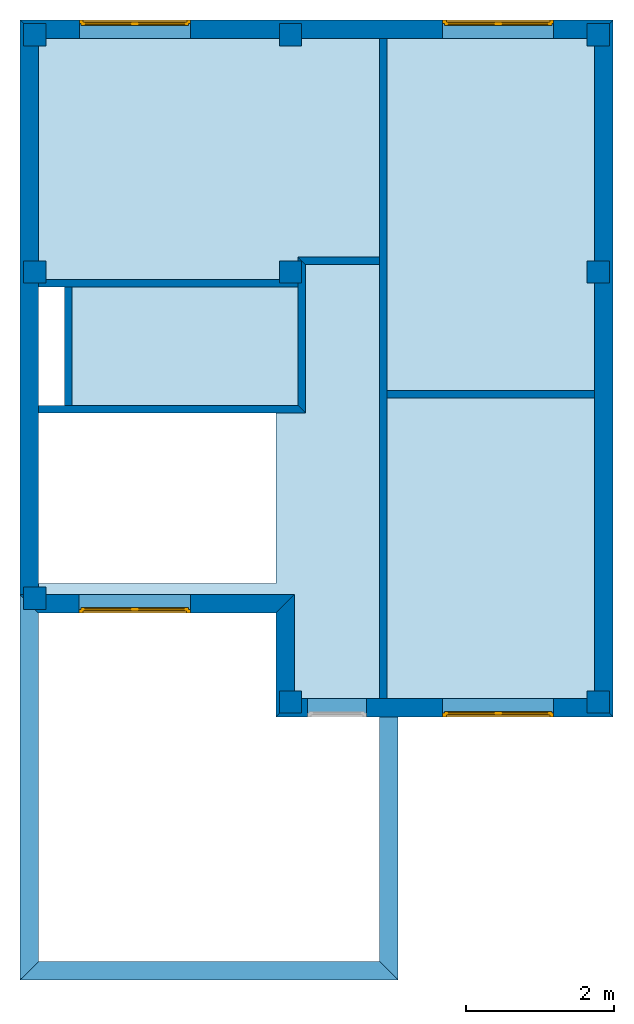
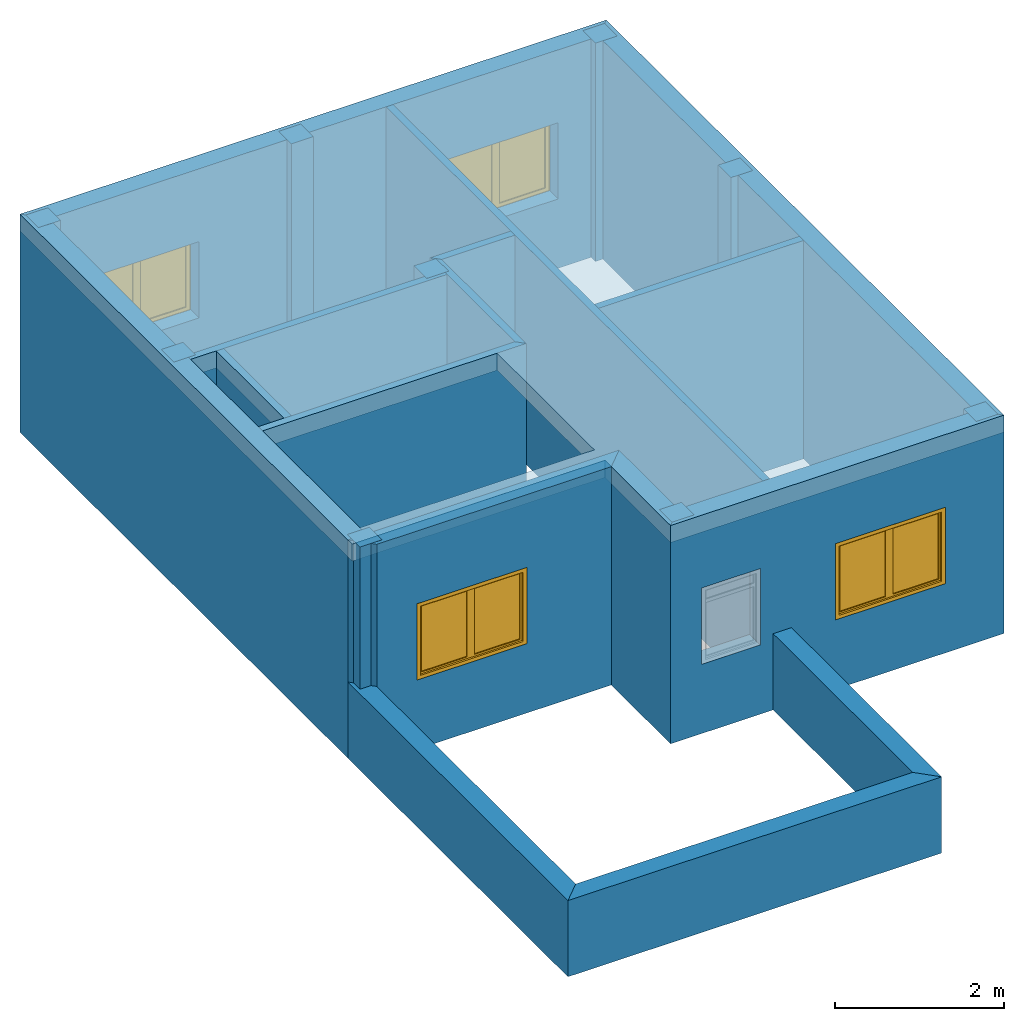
# One storey, part 1 of 2: 16 walls, 9 columns, 4 windows, 1 slab, 7 openings.
"""IFC2X3 building model written with IfcOpenShell, lengths in millimetres."""

from ifc_helpers import new_model, entity, si_unit, converted_unit, direction, frame, frame_2d, origin_with_axes, origin_2d_with_axis, place, context, project, spatial, polyline, rectangle, outline, extrude, faceted_brep, source, transform, mapped, material, layer, layer_set, layer_usage, type_object, element, fill, save


model = new_model("IFC2X3")

# Units and contexts
context_of_model = context(None, 3, precision=1e-05, world=origin_with_axes(), true_north=direction((6.123234e-17, 1.0)))
plan_context = context("Plan", 3, precision=1e-05, world=origin_with_axes(), true_north=direction((6.123234e-17, 1.0)))
model_context = context("Model", 3, precision=1e-05, world=origin_with_axes(), true_north=direction((6.123234e-17, 1.0)))
ifc_project = project(units=[si_unit("LENGTHUNIT", "METRE", prefix="MILLI"), si_unit("AREAUNIT", "SQUARE_METRE"), si_unit("VOLUMEUNIT", "CUBIC_METRE"), converted_unit("PLANEANGLEUNIT", "DEGREE", entity("IfcPlaneAngleMeasure", 0.017453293), si_unit("PLANEANGLEUNIT", "RADIAN"), dimensions=[0, 0, 0, 0, 0, 0, 0]), si_unit("SOLIDANGLEUNIT", "STERADIAN"), si_unit("MASSUNIT", "GRAM"), si_unit("TIMEUNIT", "SECOND"), si_unit("THERMODYNAMICTEMPERATUREUNIT", "DEGREE_CELSIUS"), si_unit("LUMINOUSINTENSITYUNIT", "LUMEN")], contexts=[context_of_model, plan_context, model_context])

# Site, building, storey
site_placement = place(None, origin_with_axes())
site = spatial("IfcSite", under=ifc_project, at=site_placement, Name="Por defecto Sitio", CompositionType="ELEMENT")
building_placement = place(site_placement, origin_with_axes())
building = spatial("IfcBuilding", under=site, at=building_placement, Name="Por defecto Edificio", CompositionType="ELEMENT")
storey_placement = place(building_placement, frame((0.0, 0.0, 3150.0), z_axis=(0.0, 0.0, 1.0), x_axis=(1.0, 0.0, 0.0)))
storey = spatial("IfcBuildingStorey", under=building, at=storey_placement, Name="Primera", CompositionType="ELEMENT", Elevation=3150.0)

# Columns
ifc_material_1 = material(Name="Hormigón armado")
for number, where, z_axis, x_axis, name in (
    (1, (7600.0, 12550.0, 0.0), (0.0, 0.0, 1.0), (1.0, 0.0, 0.0), "Pilar-011"),
    (2, (3450.0, 12550.0, 0.0), (0.0, 0.0, 1.0), (1.0, 0.0, 0.0), "Pilar-010"),
    (3, (3450.0, 3550.0, 0.0), (0.0, 0.0, 1.0), (1.0, 0.0, 0.0), "Pilar-003"),
    (4, (7600.0, 3550.0, 0.0), (0.0, 0.0, 1.0), (1.0, 0.0, 0.0), "Pilar-004"),
    (5, (0.0, 4950.0, 0.0), (0.0, 0.0, 1.0), (1.0, 0.0, 0.0), "Pilar-005"),
    (6, (7600.0, 9350.0, 0.0), (0.0, 0.0, 1.0), (1.0, 0.0, 0.0), "Pilar-006"),
    (7, (3450.0, 9350.0, 0.0), (0.0, 0.0, 1.0), (1.0, 0.0, 0.0), "Pilar-007"),
    (8, (0.0, 9350.0, 0.0), (0.0, 0.0, 1.0), (1.0, 0.0, 0.0), "Pilar-008"),
    (9, (0.0, 12550.0, 0.0), (0.0, 0.0, 1.0), (1.0, 0.0, 0.0), "Pilar-009"),
):
    element("IfcColumn", number, at=place(storey_placement, frame(where, z_axis=z_axis, x_axis=x_axis)), inside=storey, material=ifc_material_1, Name=name, context=model_context, shape_type="SweptSolid", body=[
        extrude(rectangle(XDim=300.0, YDim=300.0, at=origin_2d_with_axis()), origin_with_axes(), (0.0, 0.0, 1.0), 3150.0),
    ])

# Slab, openings
ifc_layer_1 = layer(ifc_material_1, 250.0, ventilated="UNKNOWN")
ifc_layer_set_1 = layer_set([ifc_layer_1], Name="Hormigón armado 250")
ifc_layer_usage_1 = layer_usage(ifc_layer_set_1, "AXIS3", "NEGATIVE", 250.0)
slab_placement = place(storey_placement, frame((7800.0, 3350.0, 2900.0), z_axis=(0.0, 0.0, 1.0), x_axis=(0.0, 1.0, 0.0)))
slab = element("IfcSlab", 10, at=slab_placement, inside=storey, material=ifc_layer_usage_1, Name="Forj-005", PredefinedType="FLOOR", context=model_context, shape_type="SweptSolid", body=[
    extrude(outline(polyline([(0.0, 0.0), (9400.0, 0.0), (9400.0, 8000.0), (1550.0, 8000.0), (1550.0, 4550.0), (0.0, 4550.0), (0.0, 0.0)])), origin_with_axes(), (0.0, 0.0, 1.0), 250.0),
])
opening_1_placement = place(slab_placement, origin_with_axes())
element("IfcOpeningElement", 11, at=opening_1_placement, cuts=slab, context=model_context, shape_type="SweptSolid", body=[
    extrude(outline(polyline([(5800.0, 7750.0), (5800.0, 7400.0), (4200.0, 7400.0), (4200.0, 7750.0), (5800.0, 7750.0)])), origin_with_axes(), (0.0, 0.0, 1.0), 250.0),
])
opening_2_placement = place(slab_placement, origin_with_axes())
element("IfcOpeningElement", 12, at=opening_2_placement, cuts=slab, context=model_context, shape_type="SweptSolid", body=[
    extrude(outline(polyline([(4100.0, 7750.0), (4100.0, 4550.0), (1800.0, 4550.0), (1800.0, 7750.0), (4100.0, 7750.0)])), origin_with_axes(), (0.0, 0.0, 1.0), 250.0),
])

# Walls
ifc_material_2 = material(Name="Bloque mampostería")
ifc_layer_2 = layer(ifc_material_2, 250.0, ventilated="UNKNOWN")
ifc_layer_set_2 = layer_set([ifc_layer_2], Name="Bloque mampostería 250")
ifc_layer_usage_2 = layer_usage(ifc_layer_set_2, "AXIS2", "NEGATIVE", 0.0)
wall_type_1 = type_object("IfcWallType", Name="Bloque mampostería 250", PredefinedType="NOTDEFINED", material=ifc_layer_set_2)
wall_1_placement = place(storey_placement, frame((4900.0, 3350.0, 0.0), z_axis=(0.0, 0.0, 1.0), x_axis=(0.0, -1.0, 0.0)))
element("IfcWallStandardCase", 13, at=wall_1_placement, inside=storey, type_object=wall_type_1, material=ifc_layer_usage_2, Name="Muro-009", context=model_context, shape_type="SweptSolid", body=[
    extrude(outline(polyline([(0.0, -250.0), (3300.0, -250.0), (3550.0, 0.0), (0.0, 0.0), (0.0, -250.0)])), origin_with_axes(), (0.0, 0.0, 1.0), 1100.0),
])
ifc_layer_usage_3 = layer_usage(ifc_layer_set_2, "AXIS2", "NEGATIVE", 0.0)
wall_2_placement = place(storey_placement, frame((4900.0, -200.0, 0.0), z_axis=(0.0, 0.0, 1.0), x_axis=(-1.0, 0.0, 0.0)))
element("IfcWallStandardCase", 14, at=wall_2_placement, inside=storey, type_object=wall_type_1, material=ifc_layer_usage_3, Name="Muro-010", context=model_context, shape_type="SweptSolid", body=[
    extrude(outline(polyline([(250.0, -250.0), (4850.0, -250.0), (5100.0, 0.0), (0.0, 0.0), (250.0, -250.0)])), origin_with_axes(), (0.0, 0.0, 1.0), 1100.0),
])
ifc_layer_usage_4 = layer_usage(ifc_layer_set_2, "AXIS2", "NEGATIVE", 0.0)
wall_3_placement = place(storey_placement, frame((-200.0, -200.0, 0.0), z_axis=(0.0, 0.0, 1.0), x_axis=(0.0, 1.0, 0.0)))
element("IfcWallStandardCase", 15, at=wall_3_placement, inside=storey, type_object=wall_type_1, material=ifc_layer_usage_4, Name="Muro-011", context=model_context, shape_type="SweptSolid", body=[
    extrude(outline(polyline([(250.0, -250.0), (4950.0, -250.0), (5200.0, 0.0), (0.0, 0.0), (250.0, -250.0)])), origin_with_axes(), (0.0, 0.0, 1.0), 1100.0),
])

# Wall, openings, window
ifc_layer_usage_5 = layer_usage(ifc_layer_set_2, "AXIS2", "NEGATIVE", 0.0)
wall_4_placement = place(storey_placement, frame((7800.0, 3350.0, 0.0), z_axis=(0.0, 0.0, 1.0), x_axis=(-1.0, 0.0, 0.0)))
wall_4 = element("IfcWallStandardCase", 16, at=wall_4_placement, inside=storey, type_object=wall_type_1, material=ifc_layer_usage_5, Name="Muro-009", context=model_context, shape_type="SweptSolid", body=[
    extrude(outline(polyline([(250.0, -250.0), (4300.0, -250.0), (4550.0, 0.0), (0.0, 0.0), (250.0, -250.0)])), origin_with_axes(), (0.0, 0.0, 1.0), 3150.0),
])
opening_3_placement = place(wall_4_placement, frame((1550.0, -250.0, 1000.0), z_axis=(0.0, 0.0, 1.0), x_axis=(1.0, 0.0, 0.0)))
opening_3 = element("IfcOpeningElement", 17, at=opening_3_placement, cuts=wall_4, ObjectType="Opening", context=model_context, shape_type="SweptSolid", body=[
    extrude(rectangle(XDim=1500.0, YDim=1100.0, at=frame_2d((0.0, 550.0), x_axis=(1.0, 0.0))), frame((0.0, 0.0, 0.0), z_axis=(0.0, 1.0, 0.0), x_axis=(-1.0, 0.0, 0.0)), (0.0, 0.0, 1.0), 250.0),
])
opening_4_placement = place(wall_4_placement, frame((3725.0, -250.0, 1000.0), z_axis=(0.0, 0.0, 1.0), x_axis=(1.0, 0.0, 0.0)))
element("IfcOpeningElement", 18, at=opening_4_placement, cuts=wall_4, ObjectType="Opening", context=model_context, shape_type="SweptSolid", body=[
    extrude(rectangle(XDim=800.0, YDim=1100.0, at=frame_2d((0.0, 550.0), x_axis=(1.0, 0.0))), frame((0.0, 0.0, 0.0), z_axis=(0.0, 1.0, 0.0), x_axis=(-1.0, 0.0, 0.0)), (0.0, 0.0, 1.0), 250.0),
])
window_style = type_object("IfcWindowStyle", Name="V2 Practicable 13", ConstructionType="NOTDEFINED", OperationType="SINGLE_PANEL", ParameterTakesPrecedence=False, Sizeable=False)
shared_shape_1 = source(origin_with_axes(), model_context, "Body", "Brep", [
    faceted_brep([(1475.0, 50.0, 1050.0), (1475.0, 25.0, 1050.0), (1450.0, 25.0, 1050.0), (1450.0, 0.0, 1050.0), (1500.0, 0.0, 1050.0), (1500.0, 50.0, 1050.0), (1475.0, 50.0, 50.0), (1475.0, 25.0, 50.0), (1450.0, 25.0, 50.0), (1450.0, 0.0, 50.0), (1500.0, 0.0, 50.0), (1500.0, 50.0, 50.0)], [[[0, 1, 2, 3, 4, 5]], [[1, 0, 6, 7]], [[8, 2, 1, 7]], [[2, 8, 9, 3]], [[4, 3, 9, 10]], [[5, 4, 10, 11]], [[6, 0, 5, 11]], [[7, 6, 11, 10, 9, 8]]]),
    faceted_brep([(50.0, 25.0, 1050.0), (25.0, 25.0, 1050.0), (25.0, 50.0, 1050.0), (-4.4408921e-13, 50.0, 1050.0), (-4.4408921e-13, 0.0, 1050.0), (50.0, 0.0, 1050.0), (50.0, 25.0, 50.0), (25.0, 25.0, 50.0), (25.0, 50.0, 50.0), (-4.4408921e-13, 50.0, 50.0), (-4.4408921e-13, 0.0, 50.0), (50.0, 0.0, 50.0)], [[[0, 1, 2, 3, 4, 5]], [[1, 0, 6, 7]], [[8, 2, 1, 7]], [[2, 8, 9, 3]], [[9, 10, 4, 3]], [[10, 11, 5, 4]], [[6, 0, 5, 11]], [[7, 6, 11, 10, 9, 8]]]),
    faceted_brep([(50.0, 25.0, 50.0), (25.0, 25.0, 50.0), (25.0, 50.0, 50.0), (-4.4408921e-13, 50.0, 50.0), (-4.4408921e-13, 0.0, 50.0), (50.0, 0.0, 50.0), (1450.0, 25.0, 50.0), (1475.0, 25.0, 50.0), (1475.0, 25.0, 25.0), (750.0, 25.0, 25.0), (25.0, 25.0, 25.0), (25.0, 50.0, 25.0), (1475.0, 50.0, 25.0), (1475.0, 50.0, 50.0), (1500.0, 50.0, 50.0), (1500.0, 50.0, 0.0), (-4.4408921e-13, 50.0, 0.0), (750.0, 50.0, 25.0), (0.0, 0.0, 0.0), (1500.0, 0.0, 50.0), (1450.0, 0.0, 50.0), (1500.0, 0.0, 0.0)], [[[0, 1, 2, 3, 4, 5]], [[1, 0, 6, 7, 8, 9, 10]], [[11, 2, 1, 10]], [[12, 13, 14, 15, 16, 3, 2, 11, 17]], [[16, 18, 4, 3]], [[19, 20, 5, 4, 18, 21]], [[6, 0, 5, 20]], [[7, 6, 20, 19, 14, 13]], [[7, 13, 12, 8]], [[12, 17, 9, 8]], [[17, 11, 10, 9]], [[14, 19, 21, 15]], [[15, 21, 18, 16]]]),
    faceted_brep([(1475.0, 50.0, 1075.0), (750.0, 50.0, 1075.0), (25.0, 50.0, 1075.0), (25.0, 50.0, 1050.0), (-4.4408921e-13, 50.0, 1050.0), (-4.4408921e-13, 50.0, 1100.0), (1500.0, 50.0, 1100.0), (1500.0, 50.0, 1050.0), (1475.0, 50.0, 1050.0), (1475.0, 25.0, 1075.0), (750.0, 25.0, 1075.0), (25.0, 25.0, 1075.0), (25.0, 25.0, 1050.0), (50.0, 25.0, 1050.0), (50.0, 0.0, 1050.0), (-4.4408921e-13, 0.0, 1050.0), (-4.4408921e-13, 0.0, 1100.0), (1500.0, 0.0, 1100.0), (1500.0, 0.0, 1050.0), (1475.0, 25.0, 1050.0), (1450.0, 0.0, 1050.0), (1450.0, 25.0, 1050.0)], [[[0, 1, 2, 3, 4, 5, 6, 7, 8]], [[1, 0, 9, 10]], [[2, 1, 10, 11]], [[3, 2, 11, 12]], [[12, 13, 14, 15, 4, 3]], [[4, 15, 16, 5]], [[5, 16, 17, 6]], [[6, 17, 18, 7]], [[19, 8, 7, 18, 20, 21]], [[0, 8, 19, 9]], [[13, 12, 11, 10, 9, 19, 21]], [[13, 21, 20, 14]], [[15, 14, 20, 18, 17, 16]]]),
    faceted_brep([(75.0, 25.0, 75.0), (75.0, 75.0, 75.0), (75.0, 75.0, 1025.0), (75.0, 25.0, 1025.0), (25.0, 25.0, 75.0), (25.0, 75.0, 75.0), (25.0, 75.0, 1025.0), (25.0, 25.0, 1025.0)], [[[0, 1, 2, 3]], [[4, 5, 1, 0]], [[1, 5, 6, 2]], [[3, 2, 6, 7]], [[0, 3, 7, 4]], [[7, 6, 5, 4]]]),
    faceted_brep([(750.0, 25.0, 75.0), (750.0, 75.0, 75.0), (750.0, 75.0, 1025.0), (750.0, 25.0, 1025.0), (700.0, 25.0, 75.0), (700.0, 75.0, 75.0), (700.0, 75.0, 1025.0), (700.0, 25.0, 1025.0)], [[[0, 1, 2, 3]], [[4, 5, 1, 0]], [[1, 5, 6, 2]], [[3, 2, 6, 7]], [[0, 3, 7, 4]], [[7, 6, 5, 4]]]),
    faceted_brep([(750.0, 25.0, 25.0), (750.0, 75.0, 25.0), (750.0, 75.0, 75.0), (750.0, 25.0, 75.0), (25.0, 25.0, 25.0), (25.0, 75.0, 25.0), (25.0, 75.0, 75.0), (75.0, 75.0, 75.0), (700.0, 75.0, 75.0), (700.0, 25.0, 75.0), (75.0, 25.0, 75.0), (25.0, 25.0, 75.0)], [[[0, 1, 2, 3]], [[4, 5, 1, 0]], [[1, 5, 6, 7, 8, 2]], [[3, 2, 8, 9]], [[0, 3, 9, 10, 11, 4]], [[11, 6, 5, 4]], [[10, 7, 6, 11]], [[9, 8, 7, 10]]]),
    faceted_brep([(25.0, 25.0, 1075.0), (25.0, 75.0, 1075.0), (25.0, 75.0, 1025.0), (25.0, 25.0, 1025.0), (750.0, 25.0, 1075.0), (750.0, 75.0, 1075.0), (750.0, 75.0, 1025.0), (700.0, 75.0, 1025.0), (75.0, 75.0, 1025.0), (75.0, 25.0, 1025.0), (700.0, 25.0, 1025.0), (750.0, 25.0, 1025.0)], [[[0, 1, 2, 3]], [[4, 5, 1, 0]], [[1, 5, 6, 7, 8, 2]], [[3, 2, 8, 9]], [[0, 3, 9, 10, 11, 4]], [[11, 6, 5, 4]], [[10, 7, 6, 11]], [[9, 8, 7, 10]]]),
    faceted_brep([(75.0, 40.0, 75.0), (75.0, 60.0, 75.0), (700.0, 60.0, 75.0), (700.0, 40.0, 75.0), (75.0, 40.0, 1025.0), (75.0, 60.0, 1025.0), (700.0, 60.0, 1025.0), (700.0, 40.0, 1025.0)], [[[0, 1, 2, 3]], [[4, 5, 1, 0]], [[1, 5, 6, 2]], [[3, 2, 6, 7]], [[0, 3, 7, 4]], [[7, 6, 5, 4]]]),
    faceted_brep([(800.0, 25.0, 75.0), (800.0, 75.0, 75.0), (800.0, 75.0, 1025.0), (800.0, 25.0, 1025.0), (750.0, 25.0, 75.0), (750.0, 75.0, 75.0), (750.0, 75.0, 1025.0), (750.0, 25.0, 1025.0)], [[[0, 1, 2, 3]], [[4, 5, 1, 0]], [[1, 5, 6, 2]], [[3, 2, 6, 7]], [[0, 3, 7, 4]], [[7, 6, 5, 4]]]),
    faceted_brep([(1475.0, 25.0, 75.0), (1475.0, 75.0, 75.0), (1475.0, 75.0, 1025.0), (1475.0, 25.0, 1025.0), (1425.0, 25.0, 75.0), (1425.0, 75.0, 75.0), (1425.0, 75.0, 1025.0), (1425.0, 25.0, 1025.0)], [[[0, 1, 2, 3]], [[4, 5, 1, 0]], [[1, 5, 6, 2]], [[3, 2, 6, 7]], [[0, 3, 7, 4]], [[7, 6, 5, 4]]]),
    faceted_brep([(1475.0, 25.0, 25.0), (1475.0, 75.0, 25.0), (1475.0, 75.0, 75.0), (1475.0, 25.0, 75.0), (750.0, 25.0, 25.0), (750.0, 75.0, 25.0), (750.0, 75.0, 75.0), (800.0, 75.0, 75.0), (1425.0, 75.0, 75.0), (1425.0, 25.0, 75.0), (800.0, 25.0, 75.0), (750.0, 25.0, 75.0)], [[[0, 1, 2, 3]], [[4, 5, 1, 0]], [[1, 5, 6, 7, 8, 2]], [[3, 2, 8, 9]], [[0, 3, 9, 10, 11, 4]], [[11, 6, 5, 4]], [[10, 7, 6, 11]], [[9, 8, 7, 10]]]),
    faceted_brep([(750.0, 25.0, 1075.0), (750.0, 75.0, 1075.0), (750.0, 75.0, 1025.0), (750.0, 25.0, 1025.0), (1475.0, 25.0, 1075.0), (1475.0, 75.0, 1075.0), (1475.0, 75.0, 1025.0), (1425.0, 75.0, 1025.0), (800.0, 75.0, 1025.0), (800.0, 25.0, 1025.0), (1425.0, 25.0, 1025.0), (1475.0, 25.0, 1025.0)], [[[0, 1, 2, 3]], [[4, 5, 1, 0]], [[1, 5, 6, 7, 8, 2]], [[3, 2, 8, 9]], [[0, 3, 9, 10, 11, 4]], [[11, 6, 5, 4]], [[10, 7, 6, 11]], [[9, 8, 7, 10]]]),
    faceted_brep([(800.0, 40.0, 75.0), (800.0, 60.0, 75.0), (1425.0, 60.0, 75.0), (1425.0, 40.0, 75.0), (800.0, 40.0, 1025.0), (800.0, 60.0, 1025.0), (1425.0, 60.0, 1025.0), (1425.0, 40.0, 1025.0)], [[[0, 1, 2, 3]], [[4, 5, 1, 0]], [[1, 5, 6, 2]], [[3, 2, 6, 7]], [[0, 3, 7, 4]], [[7, 6, 5, 4]]]),
])
window_1_placement = place(opening_3_placement, frame((750.0, 250.0, 0.0), z_axis=(0.0, 0.0, 1.0), x_axis=(-1.0, 0.0, 0.0)))
window_1 = element("IfcWindow", 19, at=window_1_placement, inside=storey, type_object=window_style, Name="V03", OverallHeight=1100.0, OverallWidth=1500.0, context=model_context, shape_type="MappedRepresentation", body=[
    mapped(shared_shape_1, transform((0.0, 0.0, 0.0), scale=1.0)),
])
fill(opening_3, window_1)

# Wall
ifc_layer_usage_6 = layer_usage(ifc_layer_set_2, "AXIS2", "NEGATIVE", 0.0)
wall_5_placement = place(storey_placement, frame((3250.0, 3350.0, 0.0), z_axis=(0.0, 0.0, 1.0), x_axis=(0.0, 1.0, 0.0)))
element("IfcWallStandardCase", 20, at=wall_5_placement, inside=storey, type_object=wall_type_1, material=ifc_layer_usage_6, Name="Muro-010", context=model_context, shape_type="SweptSolid", body=[
    extrude(outline(polyline([(250.0, -250.0), (1650.0, -250.0), (1400.0, 0.0), (0.0, 0.0), (250.0, -250.0)])), origin_with_axes(), (0.0, 0.0, 1.0), 3150.0),
])

# Wall, opening, window
ifc_layer_usage_7 = layer_usage(ifc_layer_set_2, "AXIS2", "NEGATIVE", 0.0)
wall_6_placement = place(storey_placement, frame((3250.0, 4750.0, 0.0), z_axis=(0.0, 0.0, 1.0), x_axis=(-1.0, 0.0, 0.0)))
wall_6 = element("IfcWallStandardCase", 21, at=wall_6_placement, inside=storey, type_object=wall_type_1, material=ifc_layer_usage_7, Name="Muro-011", context=model_context, shape_type="SweptSolid", body=[
    extrude(outline(polyline([(-250.0, -250.0), (3450.0, -250.0), (3200.0, 0.0), (0.0, 0.0), (-250.0, -250.0)])), origin_with_axes(), (0.0, 0.0, 1.0), 3150.0),
])
opening_5_placement = place(wall_6_placement, frame((1903.2593, -250.0, 1000.0), z_axis=(0.0, 0.0, 1.0), x_axis=(1.0, 0.0, 0.0)))
opening_5 = element("IfcOpeningElement", 22, at=opening_5_placement, cuts=wall_6, ObjectType="Opening", context=model_context, shape_type="SweptSolid", body=[
    extrude(rectangle(XDim=1500.0, YDim=1100.0, at=frame_2d((0.0, 550.0), x_axis=(1.0, 0.0))), frame((0.0, 0.0, 0.0), z_axis=(0.0, 1.0, 0.0), x_axis=(-1.0, 0.0, 0.0)), (0.0, 0.0, 1.0), 250.0),
])
shared_shape_2 = source(origin_with_axes(), model_context, "Body", "Brep", [
    faceted_brep([(25.0, 50.0, 1050.0), (0.0, 50.0, 1050.0), (0.0, 0.0, 1050.0), (50.0, 0.0, 1050.0), (50.0, 25.0, 1050.0), (25.0, 25.0, 1050.0), (25.0, 50.0, 50.0), (0.0, 50.0, 50.0), (0.0, 0.0, 50.0), (50.0, 0.0, 50.0), (50.0, 25.0, 50.0), (25.0, 25.0, 50.0)], [[[0, 1, 2, 3, 4, 5]], [[6, 7, 1, 0]], [[1, 7, 8, 2]], [[2, 8, 9, 3]], [[4, 3, 9, 10]], [[10, 11, 5, 4]], [[5, 11, 6, 0]], [[11, 10, 9, 8, 7, 6]]]),
    faceted_brep([(1450.0, 25.0, 1050.0), (1450.0, 0.0, 1050.0), (1500.0, 0.0, 1050.0), (1500.0, 50.0, 1050.0), (1475.0, 50.0, 1050.0), (1475.0, 25.0, 1050.0), (1450.0, 25.0, 50.0), (1450.0, 0.0, 50.0), (1500.0, 0.0, 50.0), (1500.0, 50.0, 50.0), (1475.0, 50.0, 50.0), (1475.0, 25.0, 50.0)], [[[0, 1, 2, 3, 4, 5]], [[6, 7, 1, 0]], [[8, 2, 1, 7]], [[9, 3, 2, 8]], [[4, 3, 9, 10]], [[10, 11, 5, 4]], [[5, 11, 6, 0]], [[11, 10, 9, 8, 7, 6]]]),
    faceted_brep([(1450.0, 25.0, 50.0), (1450.0, 0.0, 50.0), (1500.0, 0.0, 50.0), (1500.0, 50.0, 50.0), (1475.0, 50.0, 50.0), (1475.0, 25.0, 50.0), (50.0, 25.0, 50.0), (50.0, 0.0, 50.0), (0.0, 0.0, 50.0), (0.0, 0.0, 0.0), (1500.0, 0.0, 0.0), (1500.0, 50.0, 0.0), (25.0, 50.0, 25.0), (750.0, 50.0, 25.0), (1475.0, 50.0, 25.0), (0.0, 50.0, 0.0), (0.0, 50.0, 50.0), (25.0, 50.0, 50.0), (1475.0, 25.0, 25.0), (750.0, 25.0, 25.0), (25.0, 25.0, 25.0), (25.0, 25.0, 50.0)], [[[0, 1, 2, 3, 4, 5]], [[6, 7, 1, 0]], [[8, 9, 10, 2, 1, 7]], [[11, 3, 2, 10]], [[12, 13, 14, 4, 3, 11, 15, 16, 17]], [[14, 18, 5, 4]], [[5, 18, 19, 20, 21, 6, 0]], [[21, 17, 16, 8, 7, 6]], [[16, 15, 9, 8]], [[15, 11, 10, 9]], [[12, 20, 19, 13]], [[13, 19, 18, 14]], [[21, 20, 12, 17]]]),
    faceted_brep([(25.0, 50.0, 1075.0), (25.0, 50.0, 1050.0), (0.0, 50.0, 1050.0), (0.0, 50.0, 1100.0), (1500.0, 50.0, 1100.0), (1500.0, 50.0, 1050.0), (1475.0, 50.0, 1050.0), (1475.0, 50.0, 1075.0), (750.0, 50.0, 1075.0), (25.0, 25.0, 1075.0), (25.0, 25.0, 1050.0), (50.0, 25.0, 1050.0), (50.0, 0.0, 1050.0), (0.0, 0.0, 1050.0), (0.0, 0.0, 1100.0), (1500.0, 0.0, 1100.0), (1500.0, 0.0, 1050.0), (1475.0, 25.0, 1050.0), (1450.0, 0.0, 1050.0), (1450.0, 25.0, 1050.0), (1475.0, 25.0, 1075.0), (750.0, 25.0, 1075.0)], [[[0, 1, 2, 3, 4, 5, 6, 7, 8]], [[0, 9, 10, 1]], [[10, 11, 12, 13, 2, 1]], [[3, 2, 13, 14]], [[4, 3, 14, 15]], [[5, 4, 15, 16]], [[17, 6, 5, 16, 18, 19]], [[6, 17, 20, 7]], [[7, 20, 21, 8]], [[8, 21, 9, 0]], [[19, 11, 10, 9, 21, 20, 17]], [[19, 18, 12, 11]], [[16, 15, 14, 13, 12, 18]]]),
    faceted_brep([(1425.0, 25.0, 75.0), (1425.0, 25.0, 1025.0), (1425.0, 75.0, 1025.0), (1425.0, 75.0, 75.0), (1475.0, 25.0, 75.0), (1475.0, 25.0, 1025.0), (1475.0, 75.0, 1025.0), (1475.0, 75.0, 75.0)], [[[0, 1, 2, 3]], [[0, 4, 5, 1]], [[1, 5, 6, 2]], [[3, 2, 6, 7]], [[4, 0, 3, 7]], [[5, 4, 7, 6]]]),
    faceted_brep([(750.0, 25.0, 75.0), (750.0, 25.0, 1025.0), (750.0, 75.0, 1025.0), (750.0, 75.0, 75.0), (800.0, 25.0, 75.0), (800.0, 25.0, 1025.0), (800.0, 75.0, 1025.0), (800.0, 75.0, 75.0)], [[[0, 1, 2, 3]], [[0, 4, 5, 1]], [[1, 5, 6, 2]], [[3, 2, 6, 7]], [[4, 0, 3, 7]], [[5, 4, 7, 6]]]),
    faceted_brep([(750.0, 25.0, 25.0), (750.0, 25.0, 75.0), (750.0, 75.0, 75.0), (750.0, 75.0, 25.0), (1475.0, 25.0, 25.0), (1475.0, 25.0, 75.0), (1425.0, 25.0, 75.0), (800.0, 25.0, 75.0), (800.0, 75.0, 75.0), (1425.0, 75.0, 75.0), (1475.0, 75.0, 75.0), (1475.0, 75.0, 25.0)], [[[0, 1, 2, 3]], [[0, 4, 5, 6, 7, 1]], [[1, 7, 8, 2]], [[3, 2, 8, 9, 10, 11]], [[4, 0, 3, 11]], [[5, 4, 11, 10]], [[6, 5, 10, 9]], [[7, 6, 9, 8]]]),
    faceted_brep([(1475.0, 25.0, 1075.0), (1475.0, 25.0, 1025.0), (1475.0, 75.0, 1025.0), (1475.0, 75.0, 1075.0), (750.0, 25.0, 1075.0), (750.0, 25.0, 1025.0), (800.0, 25.0, 1025.0), (1425.0, 25.0, 1025.0), (1425.0, 75.0, 1025.0), (800.0, 75.0, 1025.0), (750.0, 75.0, 1025.0), (750.0, 75.0, 1075.0)], [[[0, 1, 2, 3]], [[0, 4, 5, 6, 7, 1]], [[1, 7, 8, 2]], [[3, 2, 8, 9, 10, 11]], [[4, 0, 3, 11]], [[5, 4, 11, 10]], [[6, 5, 10, 9]], [[7, 6, 9, 8]]]),
    faceted_brep([(1425.0, 40.0, 75.0), (800.0, 40.0, 75.0), (800.0, 60.0, 75.0), (1425.0, 60.0, 75.0), (1425.0, 40.0, 1025.0), (800.0, 40.0, 1025.0), (800.0, 60.0, 1025.0), (1425.0, 60.0, 1025.0)], [[[0, 1, 2, 3]], [[0, 4, 5, 1]], [[1, 5, 6, 2]], [[3, 2, 6, 7]], [[4, 0, 3, 7]], [[5, 4, 7, 6]]]),
    faceted_brep([(700.0, 25.0, 75.0), (700.0, 25.0, 1025.0), (700.0, 75.0, 1025.0), (700.0, 75.0, 75.0), (750.0, 25.0, 75.0), (750.0, 25.0, 1025.0), (750.0, 75.0, 1025.0), (750.0, 75.0, 75.0)], [[[0, 1, 2, 3]], [[0, 4, 5, 1]], [[1, 5, 6, 2]], [[3, 2, 6, 7]], [[4, 0, 3, 7]], [[5, 4, 7, 6]]]),
    faceted_brep([(25.0, 25.0, 75.0), (25.0, 25.0, 1025.0), (25.0, 75.0, 1025.0), (25.0, 75.0, 75.0), (75.0, 25.0, 75.0), (75.0, 25.0, 1025.0), (75.0, 75.0, 1025.0), (75.0, 75.0, 75.0)], [[[0, 1, 2, 3]], [[0, 4, 5, 1]], [[1, 5, 6, 2]], [[3, 2, 6, 7]], [[4, 0, 3, 7]], [[5, 4, 7, 6]]]),
    faceted_brep([(25.0, 25.0, 25.0), (25.0, 25.0, 75.0), (25.0, 75.0, 75.0), (25.0, 75.0, 25.0), (750.0, 25.0, 25.0), (750.0, 25.0, 75.0), (700.0, 25.0, 75.0), (75.0, 25.0, 75.0), (75.0, 75.0, 75.0), (700.0, 75.0, 75.0), (750.0, 75.0, 75.0), (750.0, 75.0, 25.0)], [[[0, 1, 2, 3]], [[0, 4, 5, 6, 7, 1]], [[1, 7, 8, 2]], [[3, 2, 8, 9, 10, 11]], [[4, 0, 3, 11]], [[5, 4, 11, 10]], [[6, 5, 10, 9]], [[7, 6, 9, 8]]]),
    faceted_brep([(750.0, 25.0, 1075.0), (750.0, 25.0, 1025.0), (750.0, 75.0, 1025.0), (750.0, 75.0, 1075.0), (25.0, 25.0, 1075.0), (25.0, 25.0, 1025.0), (75.0, 25.0, 1025.0), (700.0, 25.0, 1025.0), (700.0, 75.0, 1025.0), (75.0, 75.0, 1025.0), (25.0, 75.0, 1025.0), (25.0, 75.0, 1075.0)], [[[0, 1, 2, 3]], [[0, 4, 5, 6, 7, 1]], [[1, 7, 8, 2]], [[3, 2, 8, 9, 10, 11]], [[4, 0, 3, 11]], [[5, 4, 11, 10]], [[6, 5, 10, 9]], [[7, 6, 9, 8]]]),
    faceted_brep([(700.0, 40.0, 75.0), (75.0, 40.0, 75.0), (75.0, 60.0, 75.0), (700.0, 60.0, 75.0), (700.0, 40.0, 1025.0), (75.0, 40.0, 1025.0), (75.0, 60.0, 1025.0), (700.0, 60.0, 1025.0)], [[[0, 1, 2, 3]], [[0, 4, 5, 1]], [[1, 5, 6, 2]], [[3, 2, 6, 7]], [[4, 0, 3, 7]], [[5, 4, 7, 6]]]),
])
window_2_placement = place(opening_5_placement, frame((750.0, 250.0, 0.0), z_axis=(0.0, 0.0, 1.0), x_axis=(-1.0, 0.0, 0.0)))
window_2 = element("IfcWindow", 23, at=window_2_placement, inside=storey, type_object=window_style, Name="V04", OverallHeight=1100.0, OverallWidth=1500.0, context=model_context, shape_type="MappedRepresentation", body=[
    mapped(shared_shape_2, transform((0.0, 0.0, 0.0), scale=1.0)),
])
fill(opening_5, window_2)

# Wall
ifc_layer_usage_8 = layer_usage(ifc_layer_set_2, "AXIS2", "NEGATIVE", 0.0)
wall_7_placement = place(storey_placement, frame((-200.0, 4750.0, 0.0), z_axis=(0.0, 0.0, 1.0), x_axis=(0.0, 1.0, 0.0)))
element("IfcWallStandardCase", 24, at=wall_7_placement, inside=storey, type_object=wall_type_1, material=ifc_layer_usage_8, Name="Muro-012", context=model_context, shape_type="SweptSolid", body=[
    extrude(outline(polyline([(250.0, -250.0), (7750.0, -250.0), (8000.0, 0.0), (250.0, 0.0), (250.0, -250.0)])), origin_with_axes(), (0.0, 0.0, 1.0), 3150.0),
])

# Wall, openings, windows
ifc_layer_usage_9 = layer_usage(ifc_layer_set_2, "AXIS2", "NEGATIVE", 0.0)
wall_8_placement = place(storey_placement, frame((-200.0, 12750.0, 0.0), z_axis=(0.0, 0.0, 1.0), x_axis=(1.0, 0.0, 0.0)))
wall_8 = element("IfcWallStandardCase", 25, at=wall_8_placement, inside=storey, type_object=wall_type_1, material=ifc_layer_usage_9, Name="Muro-013", context=model_context, shape_type="SweptSolid", body=[
    extrude(outline(polyline([(250.0, -250.0), (7750.0, -250.0), (8000.0, 0.0), (0.0, 0.0), (250.0, -250.0)])), origin_with_axes(), (0.0, 0.0, 1.0), 3150.0),
])
opening_6_placement = place(wall_8_placement, frame((1550.0, -250.0, 1000.0), z_axis=(0.0, 0.0, 1.0), x_axis=(1.0, 0.0, 0.0)))
opening_6 = element("IfcOpeningElement", 26, at=opening_6_placement, cuts=wall_8, ObjectType="Opening", context=model_context, shape_type="SweptSolid", body=[
    extrude(rectangle(XDim=1500.0, YDim=1100.0, at=frame_2d((0.0, 550.0), x_axis=(1.0, 0.0))), frame((0.0, 0.0, 0.0), z_axis=(0.0, 1.0, 0.0), x_axis=(-1.0, 0.0, 0.0)), (0.0, 0.0, 1.0), 250.0),
])
opening_7_placement = place(wall_8_placement, frame((6450.0, -250.0, 1000.0), z_axis=(0.0, 0.0, 1.0), x_axis=(1.0, 0.0, 0.0)))
opening_7 = element("IfcOpeningElement", 27, at=opening_7_placement, cuts=wall_8, ObjectType="Opening", context=model_context, shape_type="SweptSolid", body=[
    extrude(rectangle(XDim=1500.0, YDim=1100.0, at=frame_2d((0.0, 550.0), x_axis=(1.0, 0.0))), frame((0.0, 0.0, 0.0), z_axis=(0.0, 1.0, 0.0), x_axis=(-1.0, 0.0, 0.0)), (0.0, 0.0, 1.0), 250.0),
])
window_3_placement = place(opening_7_placement, frame((750.0, 250.0, 0.0), z_axis=(0.0, 0.0, 1.0), x_axis=(-1.0, 0.0, 0.0)))
window_3 = element("IfcWindow", 28, at=window_3_placement, inside=storey, type_object=window_style, Name="V06", OverallHeight=1100.0, OverallWidth=1500.0, context=model_context, shape_type="MappedRepresentation", body=[
    mapped(shared_shape_2, transform((0.0, 0.0, 0.0), scale=1.0)),
])
fill(opening_7, window_3)
window_4_placement = place(opening_6_placement, frame((750.0, 250.0, 0.0), z_axis=(0.0, 0.0, 1.0), x_axis=(-1.0, 0.0, 0.0)))
window_4 = element("IfcWindow", 29, at=window_4_placement, inside=storey, type_object=window_style, Name="V05", OverallHeight=1100.0, OverallWidth=1500.0, context=model_context, shape_type="MappedRepresentation", body=[
    mapped(shared_shape_1, transform((0.0, 0.0, 0.0), scale=1.0)),
])
fill(opening_6, window_4)

# Walls
ifc_layer_usage_10 = layer_usage(ifc_layer_set_2, "AXIS2", "NEGATIVE", 0.0)
wall_9_placement = place(storey_placement, frame((7800.0, 12750.0, 0.0), z_axis=(0.0, 0.0, 1.0), x_axis=(0.0, -1.0, 0.0)))
element("IfcWallStandardCase", 30, at=wall_9_placement, inside=storey, type_object=wall_type_1, material=ifc_layer_usage_10, Name="Muro-014", context=model_context, shape_type="SweptSolid", body=[
    extrude(outline(polyline([(250.0, -250.0), (9150.0, -250.0), (9400.0, 0.0), (0.0, 0.0), (250.0, -250.0)])), origin_with_axes(), (0.0, 0.0, 1.0), 3150.0),
])
ifc_layer_3 = layer(ifc_material_2, 100.0, ventilated="UNKNOWN")
ifc_layer_set_3 = layer_set([ifc_layer_3], Name="Bloque mampostería 100")
ifc_layer_usage_11 = layer_usage(ifc_layer_set_3, "AXIS2", "NEGATIVE", 0.0)
wall_type_2 = type_object("IfcWallType", Name="Bloque mampostería 100", PredefinedType="NOTDEFINED", material=ifc_layer_set_3)
wall_10_placement = place(storey_placement, frame((4650.0, 3350.0, 0.0), z_axis=(0.0, 0.0, 1.0), x_axis=(0.0, 1.0, 0.0)))
element("IfcWallStandardCase", 31, at=wall_10_placement, inside=storey, type_object=wall_type_2, material=ifc_layer_usage_11, Name="Muro-007", context=model_context, shape_type="SweptSolid", body=[
    extrude(outline(polyline([(250.0, -100.0), (9150.0, -100.0), (9150.0, 0.0), (250.0, 0.0), (250.0, -100.0)])), origin_with_axes(), (0.0, 0.0, 1.0), 3150.0),
])
ifc_layer_usage_12 = layer_usage(ifc_layer_set_3, "AXIS2", "NEGATIVE", 0.0)
wall_11_placement = place(storey_placement, frame((4650.0, 9450.0, 0.0), z_axis=(0.0, 0.0, 1.0), x_axis=(-1.0, -1.4994306e-08, 0.0)))
element("IfcWallStandardCase", 32, at=wall_11_placement, inside=storey, type_object=wall_type_2, material=ifc_layer_usage_12, Name="Muro-008", context=model_context, shape_type="SweptSolid", body=[
    extrude(outline(polyline([(-1.4994423e-06, -100.0), (1100.0, -100.0), (1000.0, 0.0), (-1.2434498e-11, 0.0), (-1.4994423e-06, -100.0)])), origin_with_axes(), (0.0, 0.0, 1.0), 3150.0),
])
ifc_layer_usage_13 = layer_usage(ifc_layer_set_3, "AXIS2", "NEGATIVE", 0.0)
wall_12_placement = place(storey_placement, frame((3650.0, 9450.0, 0.0), z_axis=(0.0, 0.0, 1.0), x_axis=(0.0, -1.0, 0.0)))
element("IfcWallStandardCase", 33, at=wall_12_placement, inside=storey, type_object=wall_type_2, material=ifc_layer_usage_13, Name="Muro-009", context=model_context, shape_type="SweptSolid", body=[
    extrude(outline(polyline([(-99.999999, -100.0), (1900.0, -100.0), (2000.0, 0.0), (0.0, 0.0), (-99.999999, -100.0)])), origin_with_axes(), (0.0, 0.0, 1.0), 3150.0),
])
ifc_layer_usage_14 = layer_usage(ifc_layer_set_3, "AXIS2", "NEGATIVE", 0.0)
wall_13_placement = place(storey_placement, frame((3650.0, 7450.0, 0.0), z_axis=(0.0, 0.0, 1.0), x_axis=(-1.0, 0.0, 0.0)))
element("IfcWallStandardCase", 34, at=wall_13_placement, inside=storey, type_object=wall_type_2, material=ifc_layer_usage_14, Name="Muro-010", context=model_context, shape_type="SweptSolid", body=[
    extrude(outline(polyline([(100.0, -100.0), (3600.0, -100.0), (3600.0, 0.0), (0.0, 0.0), (100.0, -100.0)])), origin_with_axes(), (0.0, 0.0, 1.0), 3150.0),
])
ifc_layer_usage_15 = layer_usage(ifc_layer_set_3, "AXIS2", "POSITIVE", 0.0)
wall_14_placement = place(storey_placement, frame((500.0, 7450.0, 0.0), z_axis=(0.0, 0.0, 1.0), x_axis=(0.0, 1.0, 0.0)))
element("IfcWallStandardCase", 35, at=wall_14_placement, inside=storey, type_object=wall_type_2, material=ifc_layer_usage_15, Name="Muro-011", context=model_context, shape_type="SweptSolid", body=[
    extrude(outline(polyline([(100.0, 0.0), (1700.0, 0.0), (1700.0, 100.0), (100.0, 100.0), (100.0, 0.0)])), origin_with_axes(), (0.0, 0.0, 1.0), 3150.0),
])
ifc_layer_usage_16 = layer_usage(ifc_layer_set_3, "AXIS2", "NEGATIVE", 0.0)
wall_15_placement = place(storey_placement, frame((3650.0, 9150.0, 0.0), z_axis=(0.0, 0.0, 1.0), x_axis=(-1.0, 0.0, 0.0)))
element("IfcWallStandardCase", 36, at=wall_15_placement, inside=storey, type_object=wall_type_2, material=ifc_layer_usage_16, Name="Muro-012", context=model_context, shape_type="SweptSolid", body=[
    extrude(outline(polyline([(100.0, -100.0), (3600.0, -100.0), (3600.0, 0.0), (100.0, 0.0), (100.0, -100.0)])), origin_with_axes(), (0.0, 0.0, 1.0), 3150.0),
])
ifc_layer_usage_17 = layer_usage(ifc_layer_set_3, "AXIS2", "NEGATIVE", 0.0)
wall_16_placement = place(storey_placement, frame((7800.0, 7649.9999, 0.0), z_axis=(0.0, 0.0, 1.0), x_axis=(-1.0, 0.0, 0.0)))
element("IfcWallStandardCase", 37, at=wall_16_placement, inside=storey, type_object=wall_type_2, material=ifc_layer_usage_17, Name="Muro-013", context=model_context, shape_type="SweptSolid", body=[
    extrude(outline(polyline([(250.0, -100.0), (3050.0, -100.0), (3050.0, 0.0), (250.0, 0.0), (250.0, -100.0)])), origin_with_axes(), (0.0, 0.0, 1.0), 3150.0),
])

save(model, "model.ifc")
